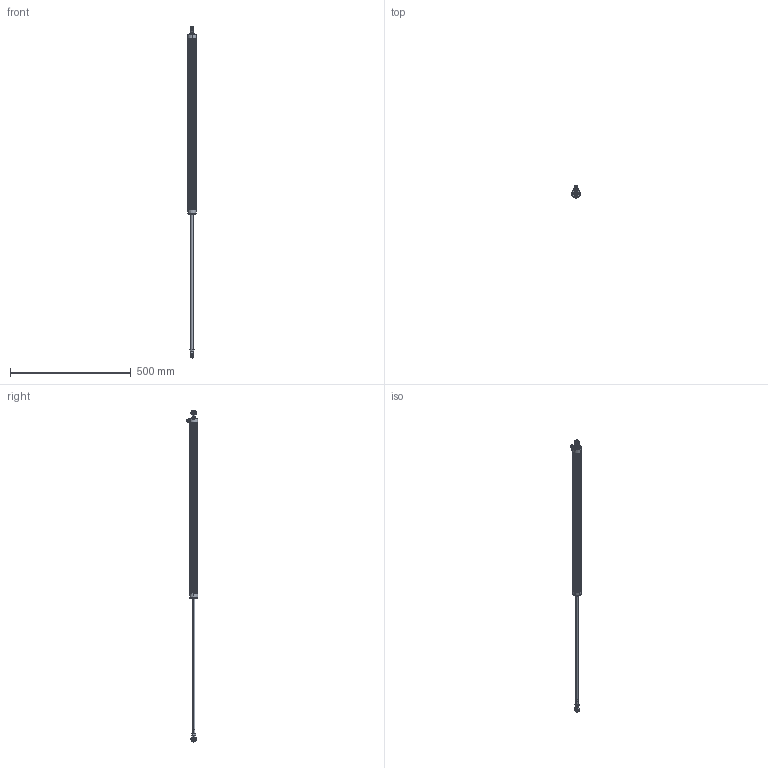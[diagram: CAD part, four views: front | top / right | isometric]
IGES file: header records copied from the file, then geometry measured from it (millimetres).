
Start section: SolidWorks IGES file using analytic representation for surfaces
Global section: file name: I:\Zeichnungen_EK-VM\ZUR BEARBEITUNG\neu_sz\LWG\0550.IGS; native system: SolidWorks 2009; preprocessor: SolidWorks 2009; author: salzinger; date: 090129.110950; units: millimetre
Bounding box: 35.03 x 49.52 x 1377.6 mm (x, y, z)
Volume: 756511.3 mm3; surface area: 146951.7 mm2
Topology: 16 solids, 16 shells, 996 faces, 5311 edges, 6841 vertices
Faces by surface type: revolution 515, plane 294, bspline 187
